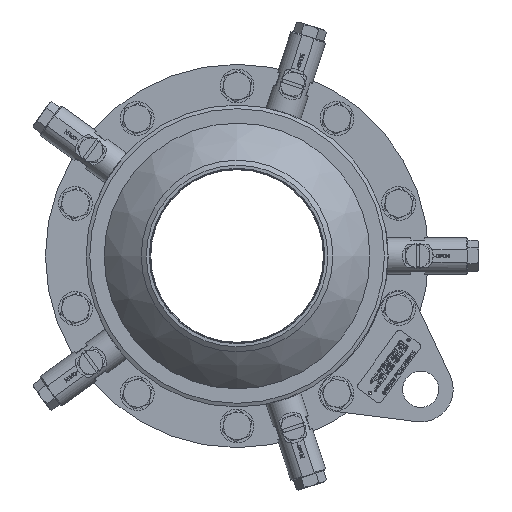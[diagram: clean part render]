
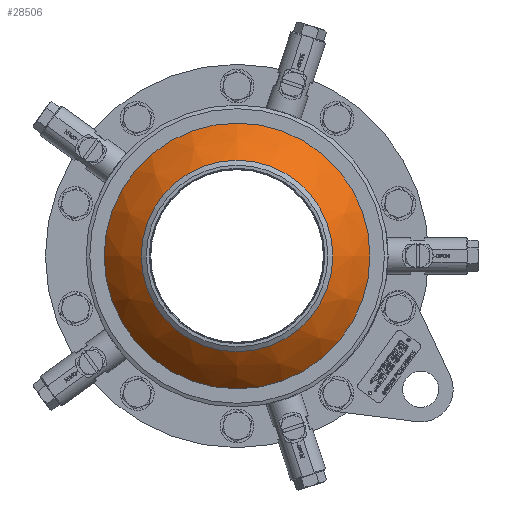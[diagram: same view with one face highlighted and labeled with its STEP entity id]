
A CAD part, left-side view. The second image highlights one B-rep face of the part: STEP entity #28506.
In plain terms, the highlighted free-form (B-spline) face has degree [2, 2] with [3, 9] control points.
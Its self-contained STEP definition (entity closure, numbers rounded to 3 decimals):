
#6282=(
BOUNDED_CURVE()
B_SPLINE_CURVE(2,(#37966,#37967,#37968),.UNSPECIFIED.,.F.,.F.)
B_SPLINE_CURVE_WITH_KNOTS((3,3),(0.604,0.951),
 .UNSPECIFIED.)
CURVE()
GEOMETRIC_REPRESENTATION_ITEM()
RATIONAL_B_SPLINE_CURVE((1.,0.985,1.))
REPRESENTATION_ITEM('')
);
#6368=(
BOUNDED_SURFACE()
B_SPLINE_SURFACE(2,2,((#37935,#37936,#37937,#37938,#37939,#37940,#37941,
#37942,#37943),(#37944,#37945,#37946,#37947,#37948,#37949,#37950,#37951,
#37952),(#37953,#37954,#37955,#37956,#37957,#37958,#37959,#37960,#37961)),
 .UNSPECIFIED.,.F.,.T.,.F.)
B_SPLINE_SURFACE_WITH_KNOTS((3,3),(3,2,2,2,3),(-0.951,-0.604),
(-3.142,-1.571,0.,1.571,3.142),
 .UNSPECIFIED.)
GEOMETRIC_REPRESENTATION_ITEM()
RATIONAL_B_SPLINE_SURFACE(((1.,0.707,1.,0.707,1.,
0.707,1.,0.707,1.),(0.985,0.696,
0.985,0.696,0.985,0.696,
0.985,0.696,0.985),(1.,0.707,
1.,0.707,1.,0.707,1.,0.707,1.)))
REPRESENTATION_ITEM('')
SURFACE()
);
#9991=FACE_OUTER_BOUND('',#11602,.T.);
#11602=EDGE_LOOP('',(#20459,#20460,#20461,#20462,#20463,#20464));
#13427=CIRCLE('',#30185,3.313);
#13428=CIRCLE('',#30186,3.313);
#13429=CIRCLE('',#30187,4.594);
#13430=CIRCLE('',#30188,4.594);
#13648=VERTEX_POINT('',#37931);
#13649=VERTEX_POINT('',#37932);
#13650=VERTEX_POINT('',#37962);
#13651=VERTEX_POINT('',#37963);
#16372=EDGE_CURVE('',#13648,#13649,#13427,.T.);
#16373=EDGE_CURVE('',#13649,#13648,#13428,.T.);
#16374=EDGE_CURVE('',#13650,#13651,#13429,.T.);
#16375=EDGE_CURVE('',#13651,#13650,#13430,.T.);
#16376=EDGE_CURVE('',#13651,#13649,#6282,.T.);
#20459=ORIENTED_EDGE('',*,*,#16374,.F.);
#20460=ORIENTED_EDGE('',*,*,#16375,.F.);
#20461=ORIENTED_EDGE('',*,*,#16376,.T.);
#20462=ORIENTED_EDGE('',*,*,#16373,.T.);
#20463=ORIENTED_EDGE('',*,*,#16372,.T.);
#20464=ORIENTED_EDGE('',*,*,#16376,.F.);
#28506=ADVANCED_FACE('',(#9991),#6368,.F.);
#30185=AXIS2_PLACEMENT_3D('',#37933,#31708,#31709);
#30186=AXIS2_PLACEMENT_3D('',#37934,#31710,#31711);
#30187=AXIS2_PLACEMENT_3D('',#37964,#31712,#31713);
#30188=AXIS2_PLACEMENT_3D('',#37965,#31714,#31715);
#31708=DIRECTION('center_axis',(1.,0.,0.));
#31709=DIRECTION('ref_axis',(0.,1.,0.));
#31710=DIRECTION('center_axis',(1.,0.,0.));
#31711=DIRECTION('ref_axis',(0.,1.,0.));
#31712=DIRECTION('center_axis',(1.,0.,0.));
#31713=DIRECTION('ref_axis',(0.,1.,0.));
#31714=DIRECTION('center_axis',(1.,0.,0.));
#31715=DIRECTION('ref_axis',(0.,1.,0.));
#37931=CARTESIAN_POINT('',(-4.736,3.313,0.));
#37932=CARTESIAN_POINT('',(-4.736,0.,3.313));
#37933=CARTESIAN_POINT('Origin',(-4.736,0.,
0.));
#37934=CARTESIAN_POINT('Origin',(-4.736,0.,
0.));
#37935=CARTESIAN_POINT('Ctrl Pts',(-4.736,0.,
3.313));
#37936=CARTESIAN_POINT('Ctrl Pts',(-4.736,-3.313,
3.313));
#37937=CARTESIAN_POINT('Ctrl Pts',(-4.736,-3.313,
0.));
#37938=CARTESIAN_POINT('Ctrl Pts',(-4.736,-3.313,
-3.313));
#37939=CARTESIAN_POINT('Ctrl Pts',(-4.736,0.,
-3.313));
#37940=CARTESIAN_POINT('Ctrl Pts',(-4.736,3.313,-3.313));
#37941=CARTESIAN_POINT('Ctrl Pts',(-4.736,3.313,0.));
#37942=CARTESIAN_POINT('Ctrl Pts',(-4.736,3.313,3.313));
#37943=CARTESIAN_POINT('Ctrl Pts',(-4.736,0.,
3.313));
#37944=CARTESIAN_POINT('Ctrl Pts',(-4.198,0.,
4.067));
#37945=CARTESIAN_POINT('Ctrl Pts',(-4.198,-4.067,4.067));
#37946=CARTESIAN_POINT('Ctrl Pts',(-4.198,-4.067,0.));
#37947=CARTESIAN_POINT('Ctrl Pts',(-4.198,-4.067,-4.067));
#37948=CARTESIAN_POINT('Ctrl Pts',(-4.198,0.,
-4.067));
#37949=CARTESIAN_POINT('Ctrl Pts',(-4.198,4.067,-4.067));
#37950=CARTESIAN_POINT('Ctrl Pts',(-4.198,4.067,0.));
#37951=CARTESIAN_POINT('Ctrl Pts',(-4.198,4.067,4.067));
#37952=CARTESIAN_POINT('Ctrl Pts',(-4.198,0.,
4.067));
#37953=CARTESIAN_POINT('Ctrl Pts',(-3.435,0.,
4.594));
#37954=CARTESIAN_POINT('Ctrl Pts',(-3.435,-4.594,4.594));
#37955=CARTESIAN_POINT('Ctrl Pts',(-3.435,-4.594,0.));
#37956=CARTESIAN_POINT('Ctrl Pts',(-3.435,-4.594,-4.594));
#37957=CARTESIAN_POINT('Ctrl Pts',(-3.435,0.,
-4.594));
#37958=CARTESIAN_POINT('Ctrl Pts',(-3.435,4.594,-4.594));
#37959=CARTESIAN_POINT('Ctrl Pts',(-3.435,4.594,0.));
#37960=CARTESIAN_POINT('Ctrl Pts',(-3.435,4.594,4.594));
#37961=CARTESIAN_POINT('Ctrl Pts',(-3.435,0.,
4.594));
#37962=CARTESIAN_POINT('',(-3.435,4.594,0.));
#37963=CARTESIAN_POINT('',(-3.435,0.,4.594));
#37964=CARTESIAN_POINT('Origin',(-3.435,0.,
0.));
#37965=CARTESIAN_POINT('Origin',(-3.435,0.,
0.));
#37966=CARTESIAN_POINT('Ctrl Pts',(-3.435,0.,
4.594));
#37967=CARTESIAN_POINT('Ctrl Pts',(-4.198,0.,
4.067));
#37968=CARTESIAN_POINT('Ctrl Pts',(-4.736,0.,
3.313));
